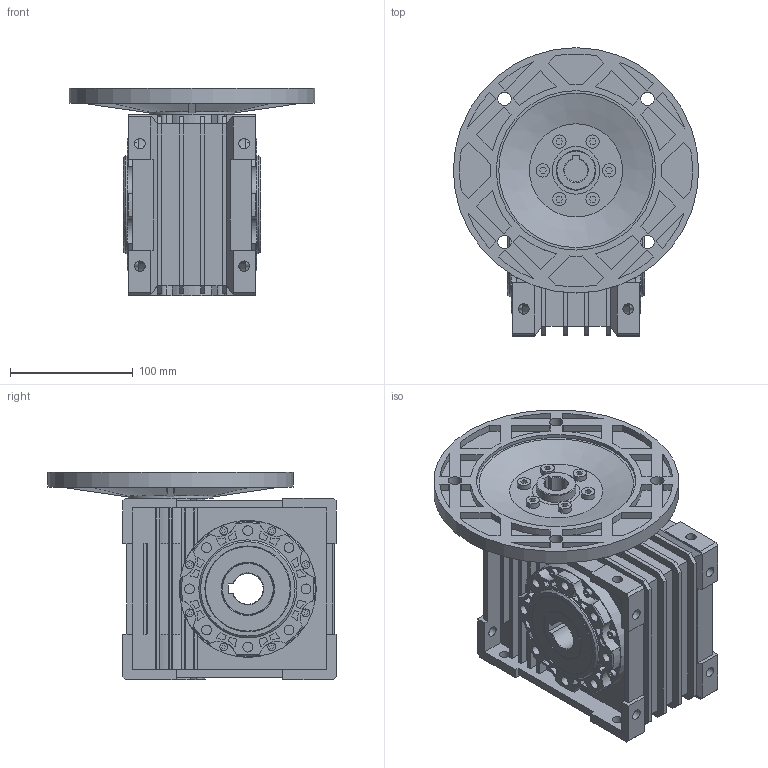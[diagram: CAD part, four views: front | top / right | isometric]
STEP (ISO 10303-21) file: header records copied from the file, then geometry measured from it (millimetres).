
FILE_DESCRIPTION(/* description */ (''),/* implementation_level */ '2;1');
FILE_NAME(/* name */ 'Z:\동력 3D 파일\PCMRV063_80B5_3D.stp',/* time_stamp */ '2021-12-01T16:44:02+09:00',/* author */ ('jaebok'),/* organization */ (''),/* preprocessor_version */ 'ST-DEVELOPER v18.1',/* originating_system */ 'Autodesk Inventor 2022',/* authorisation */ '');
FILE_SCHEMA (('AUTOMOTIVE_DESIGN { 1 0 10303 214 3 1 1 }'));
Length unit declared in the file: millimetre
Products named in the file (1): 부품48
Bounding box: 200 x 235 x 169 mm (x, y, z)
Volume: 2313824 mm3; surface area: 287817.4 mm2
Topology: 1 solids, 6 shells, 1011 faces, 2570 edges, 1703 vertices
Faces by surface type: plane 655, cylinder 323, cone 33
Full cylindrical faces by diameter (mm): 3.698 x8, 6.5 x16, 8 x16, 8.5 x16, 10.925 x6, 11 x4, 32.3 x1, 38.76 x1, 48.3 x2, 49.3 x2, 70 x3, 80 x2, 111.6 x2, 130 x1, 200 x1
Entity records: 31833 total; most frequent: CARTESIAN_POINT 5561, DIRECTION 5266, ORIENTED_EDGE 5140, EDGE_CURVE 2570, LINE 1782, VECTOR 1782, AXIS2_PLACEMENT_3D 1742, VERTEX_POINT 1703
